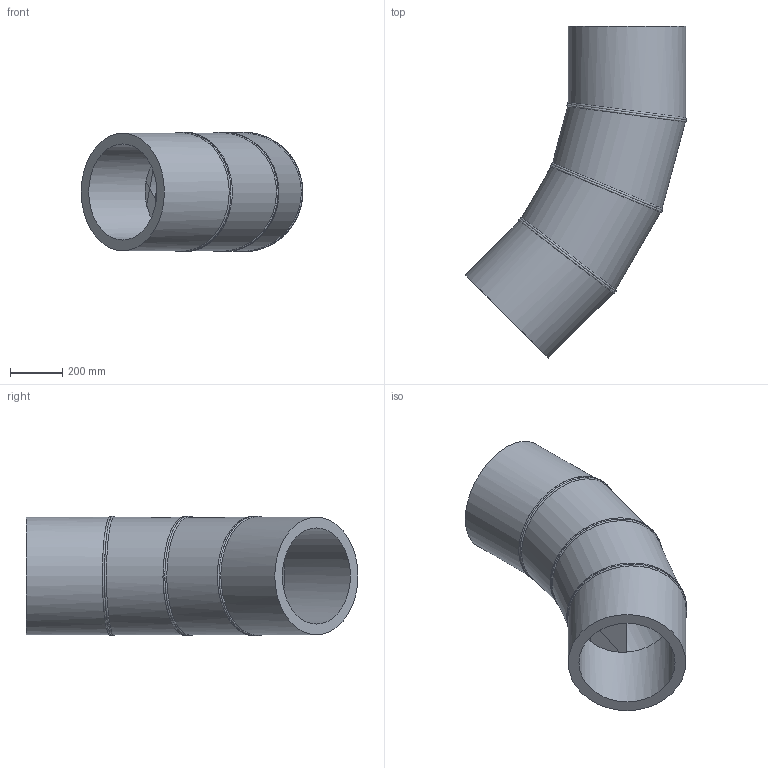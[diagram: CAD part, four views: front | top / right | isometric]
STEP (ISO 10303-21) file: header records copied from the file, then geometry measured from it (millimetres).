
FILE_DESCRIPTION(/* description */ ('Unknown'),/* implementation_level */ '2;1');
FILE_NAME(/* name */ 'Curva 45° a settore DE450 SDR11',/* time_stamp */ '2022-07-26T09:28:52+02:00',/* author */ ('Unknown'),/* organization */ ('Unknown'),/* preprocessor_version */ 'ST-DEVELOPER v18.102',/* originating_system */ 'Solid Edge',/* authorisation */ 'Unknown');
FILE_SCHEMA (('AUTOMOTIVE_DESIGN {1 0 10303 214 3 1 1}'));
Length unit declared in the file: millimetre
Products named in the file (3): Curva 45° a settore DE450 SDR11; Tubo x Gomito 45° DE450 SDR11 - 1; Tubo x Gomito 45° DE450 SDR11 - 2
Assembly tree (4 placements, depth 2):
  Curva 45° a settore DE450 SDR11
    Tubo x Gomito 45° DE450 SDR11 - 1  x2
    Tubo x Gomito 45° DE450 SDR11 - 2  x2
Bounding box: 848.24 x 1270 x 457.99 mm (x, y, z)
Volume: 66335762.2 mm3; surface area: 3696358.4 mm2
Topology: 4 solids, 4 shells, 34 faces, 74 edges, 48 vertices
Faces by surface type: cylinder 20, plane 8, bspline 6
Full cylindrical faces by diameter (mm): 368.2 x4, 450 x4
Entity records: 2414 total; most frequent: CARTESIAN_POINT 2012, DIRECTION 72, ORIENTED_EDGE 52, AXIS2_PLACEMENT_3D 36, EDGE_LOOP 28, FACE_BOUND 28, EDGE_CURVE 26, VERTEX_POINT 20
